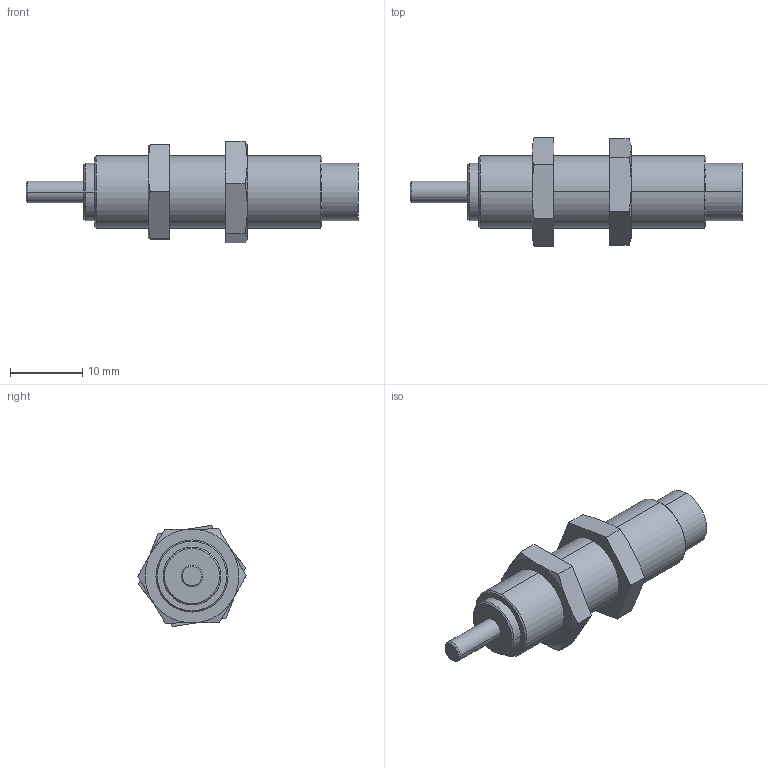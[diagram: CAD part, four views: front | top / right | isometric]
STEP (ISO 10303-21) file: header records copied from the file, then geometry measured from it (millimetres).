
FILE_DESCRIPTION (( 'STEP AP203' ), '1' );
FILE_NAME ('FSA-1008AA.STEP', '2016-03-17T07:42:54', ( 'Sam Lin' ), ( '' ), 'SwSTEP 2.0', 'SolidWorks 2013', '' );
FILE_SCHEMA (( 'CONFIG_CONTROL_DESIGN' ));
Length unit declared in the file: metre
Products named in the file (3): FSA-1008AA_1; M10x1-3mm_1; FSA-1008AA
Assembly tree (3 placements, depth 2):
  FSA-1008AA
    FSA-1008AA_1
    M10x1-3mm_1  x2
Bounding box: 46 x 15.01 x 14.04 mm (x, y, z)
Volume: 3349.9 mm3; surface area: 2137.7 mm2
Topology: 3 solids, 3 shells, 53 faces, 116 edges, 72 vertices
Faces by surface type: plane 21, cylinder 12, bspline 12, cone 8
Entity records: 1449 total; most frequent: CARTESIAN_POINT 341, DIRECTION 168, ORIENTED_EDGE 160, EDGE_CURVE 80, AXIS2_PLACEMENT_3D 69, VERTEX_POINT 50, EDGE_LOOP 42, FACE_OUTER_BOUND 37
